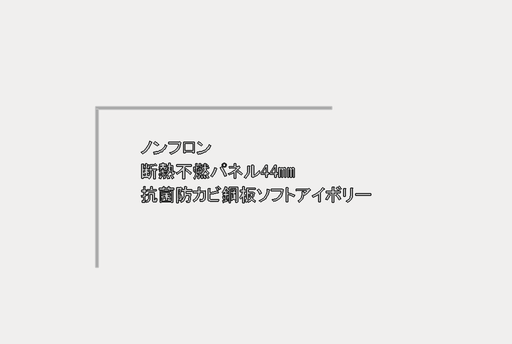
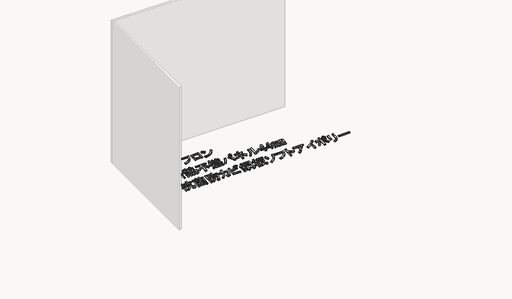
# One storey, part 12 of 117: 1 proxy.
"""IFC4 building model written with IfcOpenShell, lengths in millimetres."""

from ifc_helpers import new_model, si_unit, frame, origin, place, context, project, spatial, polyline, outline, extrude, element, save

model = new_model("IFC4")

# Units and contexts
model_context = context("Model", 3, world=origin())
ifc_project = project(units=[si_unit("LENGTHUNIT", "METRE", prefix="MILLI")], contexts=[model_context])

# Site, building, storey
site = spatial("IfcSite", under=ifc_project)
building = spatial("IfcBuilding", under=site)
storey = spatial("IfcBuildingStorey", under=building, Name="レベル 1", Elevation=500.0)

# Proxy
placement = place(None, origin())
element("IfcBuildingElementProxy", 1, Name="200㎜\u3000MS Pゴシック", ObjectType="200㎜\u3000MS Pゴシック", at=placement, inside=storey, context=model_context, shape_type="SweptSolid", body=[
    extrude(outline(polyline([(-7056.3293015, -20607.0496882), (-7081.9047498, -20666.8215225), (-7110.353844, -20712.7998566), (-7152.0217093, -20758.2034615), (-7201.1610538, -20795.560858), (-7228.7480543, -20773.7211493), (-7181.0455327, -20743.2605029), (-7141.3892195, -20704.7536481), (-7124.0036619, -20680.8305462), (-7108.6296565, -20652.7406577), (-7095.2672031, -20620.4839827), (-7083.9163019, -20584.0605212), (-7052.8809264, -20597.8540214), (-7049.7199159, -20602.4518548), (-7056.3293015, -20607.0496882)])), frame((0.0, 0.0, 500.0), z_axis=(0.0, 0.0, 1.0), x_axis=(1.0, 0.0, 0.0)), (0.0, 0.0, 1.0), 25.0),
    extrude(outline(polyline([(-6956.6022948, -20662.2236891), (-7015.2246708, -20615.0958967), (-6995.6838788, -20590.9572713), (-6968.3842429, -20610.7854279), (-6934.7625862, -20640.3839804), (-6956.6022948, -20662.2236891)])), frame((0.0, 0.0, 500.0), z_axis=(0.0, 0.0, 1.0), x_axis=(1.0, 0.0, 0.0)), (0.0, 0.0, 1.0), 25.0),
    extrude(outline(polyline([(-6794.5286672, -20662.2236891), (-6811.052131, -20691.965924), (-6830.1618761, -20717.9724192), (-6851.8579025, -20740.2431748), (-6876.1402102, -20758.7781907), (-6903.0087992, -20773.577467), (-6932.4636694, -20784.6410036), (-6964.504821, -20791.9688006), (-6999.1322539, -20795.560858), (-7004.8795456, -20803.6070664), (-7010.6268374, -20797.8597747), (-7019.8225042, -20767.9738575), (-6983.9917321, -20765.2977748), (-6951.2142088, -20758.9937141), (-6921.4899342, -20749.0616756), (-6894.8189084, -20735.5016591), (-6871.2011313, -20718.3136646), (-6850.636603, -20697.4976923), (-6833.1253234, -20673.053742), (-6818.6672926, -20644.9818138), (-6794.5286672, -20662.2236891)])), frame((0.0, 0.0, 500.0), z_axis=(0.0, 0.0, 1.0), x_axis=(1.0, 0.0, 0.0)), (0.0, 0.0, 1.0), 25.0),
    extrude(outline(polyline([(-6743.7685864, -20777.1695243), (-6709.985287, -20767.4889298), (-6680.4765359, -20755.1142922), (-6655.242333, -20740.0456116), (-6634.2826783, -20722.282888), (-6617.597572, -20701.8261214), (-6605.1870138, -20678.6753118), (-6597.0510039, -20652.8304591), (-6593.1895423, -20624.2915635), (-6765.6082951, -20624.2915635), (-6765.6082951, -20599.0034798), (-6590.8906256, -20599.0034798), (-6574.7982086, -20595.5551047), (-6562.1541668, -20607.0496882), (-6565.674383, -20643.5449909), (-6573.9361149, -20676.5919185), (-6586.9393625, -20706.1904711), (-6604.6841258, -20732.3406486), (-6627.1704048, -20755.042451), (-6654.3981995, -20774.2958784), (-6686.3675099, -20790.1009308), (-6723.078336, -20802.4576081), (-6743.7685864, -20777.1695243)])), frame((0.0, 0.0, 500.0), z_axis=(0.0, 0.0, 1.0), x_axis=(1.0, 0.0, 0.0)), (0.0, 0.0, 1.0), 25.0),
    extrude(outline(polyline([(-6329.044013, -20776.020066), (-6355.4815551, -20776.020066), (-6355.4815551, -20763.3760241), (-6483.0714321, -20763.3760241), (-6483.0714321, -20781.7673577), (-6509.5089742, -20781.7673577), (-6509.5089742, -20602.4518548), (-6329.044013, -20602.4518548), (-6329.044013, -20776.020066)]), holes=[polyline([(-6483.0714321, -20627.7399386), (-6483.0714321, -20738.0879404), (-6355.4815551, -20738.0879404), (-6355.4815551, -20627.7399386), (-6483.0714321, -20627.7399386)])]), frame((0.0, 0.0, 500.0), z_axis=(0.0, 0.0, 1.0), x_axis=(1.0, 0.0, 0.0)), (0.0, 0.0, 1.0), 25.0),
    extrude(outline(polyline([(-6052.9900951, -20662.2236891), (-6069.5135589, -20691.965924), (-6088.623304, -20717.9724192), (-6110.3193304, -20740.2431748), (-6134.6016381, -20758.7781907), (-6161.4702271, -20773.577467), (-6190.9250974, -20784.6410036), (-6222.9662489, -20791.9688006), (-6257.5936818, -20795.560858), (-6263.3409736, -20803.6070664), (-6269.0882653, -20797.8597747), (-6278.2839321, -20767.9738575), (-6242.4531601, -20765.2977748), (-6209.6756367, -20758.9937141), (-6179.9513622, -20749.0616756), (-6153.2803363, -20735.5016591), (-6129.6625593, -20718.3136646), (-6109.0980309, -20697.4976923), (-6091.5867514, -20673.053742), (-6077.1287205, -20644.9818138), (-6052.9900951, -20662.2236891)])), frame((0.0, 0.0, 500.0), z_axis=(0.0, 0.0, 1.0), x_axis=(1.0, 0.0, 0.0)), (0.0, 0.0, 1.0), 25.0),
    extrude(outline(polyline([(-6215.0637228, -20662.2236891), (-6273.6860987, -20615.0958967), (-6254.1453067, -20590.9572713), (-6226.8456709, -20610.7854279), (-6193.2240141, -20640.3839804), (-6215.0637228, -20662.2236891)])), frame((0.0, 0.0, 500.0), z_axis=(0.0, 0.0, 1.0), x_axis=(1.0, 0.0, 0.0)), (0.0, 0.0, 1.0), 25.0),
    extrude(outline(polyline([(-7122.9978859, -21039.2345221), (-7105.7560106, -20986.3594379), (-7085.0657603, -20992.1067296), (-7083.3415727, -20995.2677401), (-7087.364677, -20997.8540214), (-7104.6065523, -21046.1312722), (-7122.9978859, -21039.2345221)])), frame((0.0, 0.0, 500.0), z_axis=(0.0, 0.0, 1.0), x_axis=(1.0, 0.0, 0.0)), (0.0, 0.0, 1.0), 25.0),
    extrude(outline(polyline([(-6968.9704667, -20990.9572713), (-6970.6946542, -20995.5551047), (-6978.1661335, -20993.256188), (-7055.1798431, -21005.9002299), (-7055.1798431, -21055.326939), (-6963.2231749, -21055.326939), (-6963.2231749, -21077.1666477), (-6994.2585505, -21077.1666477), (-6994.2585505, -21217.4005666), (-7017.2477175, -21217.4005666), (-7017.2477175, -21077.1666477), (-7055.1798431, -21077.1666477), (-7055.1798431, -21126.5933568), (-7057.7661244, -21154.3958807), (-7065.5249683, -21179.1810764), (-7078.4563747, -21200.948944), (-7096.5603438, -21219.6994833), (-7113.8022191, -21200.1586914), (-7103.4570939, -21190.9630245), (-7193.1148454, -21190.9630245), (-7193.1148454, -21212.8027332), (-7216.1040124, -21212.8027332), (-7216.1040124, -20973.715396), (-7194.2643037, -20973.715396), (-7189.3791057, -20976.0143127), (-7193.1148454, -20980.6121461), (-7193.1148454, -21056.4763974), (-7150.5848863, -21056.4763974), (-7150.5848863, -20969.1175626), (-7132.1935527, -20969.1175626), (-7127.3083547, -20971.4164793), (-7131.0440943, -20976.0143127), (-7131.0440943, -21056.4763974), (-7087.364677, -21056.4763974), (-7087.364677, -21074.867731), (-7131.0440943, -21074.867731), (-7131.0440943, -21084.0633978), (-7090.813052, -21110.5009399), (-7104.6065523, -21132.3406486), (-7131.0440943, -21105.9031065), (-7131.0440943, -21158.7781907), (-7150.5848863, -21158.7781907), (-7150.5848863, -21110.5009399), (-7163.8036574, -21130.3290965), (-7178.1718868, -21146.1341488), (-7190.8159287, -21127.7428152), (-7168.97622, -21103.6041898), (-7151.7343447, -21074.867731), (-7193.1148454, -21074.867731), (-7193.1148454, -21169.1233159), (-7095.4108854, -21169.1233159), (-7095.4108854, -21182.9168161), (-7082.479479, -21158.7781907), (-7078.1690102, -21125.4438985), (-7078.1690102, -20980.6121461), (-7056.3293015, -20986.3594379), (-7020.1213634, -20978.8879586), (-6989.660717, -20965.6691875), (-6968.9704667, -20990.9572713)])), frame((0.0, 0.0, 500.0), z_axis=(0.0, 0.0, 1.0), x_axis=(1.0, 0.0, 0.0)), (0.0, 0.0, 1.0), 25.0),
    extrude(outline(polyline([(-7177.0224284, -21047.2807305), (-7189.6664703, -20996.7045631), (-7170.1256783, -20989.8078129), (-7162.3668344, -21013.9464383), (-7157.4816364, -21040.3839804), (-7177.0224284, -21047.2807305)])), frame((0.0, 0.0, 500.0), z_axis=(0.0, 0.0, 1.0), x_axis=(1.0, 0.0, 0.0)), (0.0, 0.0, 1.0), 25.0),
    extrude(outline(polyline([(-6878.1632569, -21167.9738575), (-6874.7148818, -21172.8590555), (-6880.4621736, -21176.020066), (-6890.2325696, -21201.5955143), (-6901.1524239, -21220.8489417), (-6924.141591, -21209.3543582), (-6911.4975491, -21185.790462), (-6901.1524239, -21158.7781907), (-6878.1632569, -21167.9738575)])), frame((0.0, 0.0, 500.0), z_axis=(0.0, 0.0, 1.0), x_axis=(1.0, 0.0, 0.0)), (0.0, 0.0, 1.0), 25.0),
    extrude(outline(polyline([(-6833.3343812, -21163.3760241), (-6823.2766206, -21190.67566), (-6818.3914226, -21212.8027332), (-6847.1278814, -21218.550025), (-6849.7141627, -21196.9976809), (-6857.4730066, -21166.8243992), (-6833.3343812, -21163.3760241)])), frame((0.0, 0.0, 500.0), z_axis=(0.0, 0.0, 1.0), x_axis=(1.0, 0.0, 0.0)), (0.0, 0.0, 1.0), 25.0),
    extrude(outline(polyline([(-6718.388546, -21157.6287323), (-6693.6751914, -21178.8937119), (-6674.7091286, -21203.6070664), (-6701.1466707, -21218.550025), (-6720.4000981, -21188.9514724), (-6739.0787963, -21169.1233159), (-6718.388546, -21157.6287323)])), frame((0.0, 0.0, 500.0), z_axis=(0.0, 0.0, 1.0), x_axis=(1.0, 0.0, 0.0)), (0.0, 0.0, 1.0), 25.0),
    extrude(outline(polyline([(-6777.0109219, -21216.2511083), (-6785.344495, -21191.5377537), (-6798.8506306, -21170.2727742), (-6778.1603803, -21162.2265657), (-6761.2058696, -21183.7789098), (-6749.4239215, -21207.0554415), (-6777.0109219, -21216.2511083)])), frame((0.0, 0.0, 500.0), z_axis=(0.0, 0.0, 1.0), x_axis=(1.0, 0.0, 0.0)), (0.0, 0.0, 1.0), 25.0),
    extrude(outline(polyline([(-6916.0953825, -21153.0308989), (-6918.1069346, -21157.9160969), (-6921.8426743, -21156.479274), (-6927.589966, -21132.3406486), (-6872.4159651, -21124.2944401), (-6872.4159651, -21101.3052731), (-6916.0953825, -21101.3052731), (-6916.0953825, -21082.9139395), (-6872.4159651, -21082.9139395), (-6872.4159651, -21059.9247724), (-6854.0246315, -21059.9247724), (-6849.1394335, -21062.2236891), (-6852.8751732, -21066.8215225), (-6852.8751732, -21082.9139395), (-6808.0462974, -21082.9139395), (-6808.0462974, -21101.3052731), (-6852.8751732, -21101.3052731), (-6852.8751732, -21120.8460651), (-6802.2990057, -21111.6503983), (-6802.2990057, -21127.7428152), (-6916.0953825, -21153.0308989)])), frame((0.0, 0.0, 500.0), z_axis=(0.0, 0.0, 1.0), x_axis=(1.0, 0.0, 0.0)), (0.0, 0.0, 1.0), 25.0),
    extrude(outline(polyline([(-6845.978423, -21031.1883136), (-6871.2665068, -21031.1883136), (-6875.8643402, -21048.6457123), (-6886.2094654, -21061.9363245), (-6902.3018823, -21071.0601502), (-6924.141591, -21076.0171893), (-6928.7394244, -21056.4763974), (-6903.4513406, -21047.8554597), (-6895.9798614, -21040.5276627), (-6891.9567571, -21031.1883136), (-6927.589966, -21031.1883136), (-6927.589966, -21012.79698), (-6873.5654235, -21012.79698), (-6873.5654235, -20995.5551047), (-6917.2448409, -20995.5551047), (-6917.2448409, -20977.1637711), (-6873.5654235, -20977.1637711), (-6873.5654235, -20958.7724374), (-6851.7257148, -20958.7724374), (-6846.8405168, -20961.0713541), (-6850.5762564, -20965.6691875), (-6850.5762564, -20977.1637711), (-6808.0462974, -20977.1637711), (-6808.0462974, -20995.5551047), (-6850.5762564, -20995.5551047), (-6850.5762564, -21012.79698), (-6797.7011723, -21012.79698), (-6797.7011723, -21031.1883136), (-6826.4376311, -21031.1883136), (-6826.4376311, -21043.8323555), (-6825.0008081, -21049.0049181), (-6820.6903393, -21050.7291056), (-6810.3452141, -21050.7291056), (-6806.6094745, -21047.5680951), (-6806.8968391, -21038.0850637), (-6787.3560471, -21040.3839804), (-6790.229693, -21061.9363245), (-6795.5459378, -21067.3244106), (-6803.448464, -21069.1204392), (-6827.5870894, -21069.1204392), (-6841.3805896, -21064.2352412), (-6845.978423, -21049.5796472), (-6845.978423, -21031.1883136)])), frame((0.0, 0.0, 500.0), z_axis=(0.0, 0.0, 1.0), x_axis=(1.0, 0.0, 0.0)), (0.0, 0.0, 1.0), 25.0),
    extrude(outline(polyline([(-6714.9401709, -21013.9464383), (-6736.7798796, -21013.9464383), (-6741.377713, -21071.4193559), (-6721.836921, -21089.8106896), (-6732.1820462, -21111.6503983), (-6748.2744631, -21095.5579813), (-6767.5278905, -21133.2027424), (-6797.7011723, -21165.6749408), (-6814.9430475, -21144.9846905), (-6799.8564067, -21133.0590601), (-6786.7813179, -21117.9724192), (-6775.7177813, -21099.7247679), (-6766.6657967, -21078.316106), (-6783.907672, -21063.3731475), (-6775.8614636, -21046.1312722), (-6762.0679633, -21056.4763974), (-6759.7690466, -21013.9464383), (-6787.3560471, -21013.9464383), (-6787.3560471, -20995.5551047), (-6759.7690466, -20995.5551047), (-6759.7690466, -20961.0713541), (-6737.9293379, -20961.0713541), (-6733.04414, -20963.3702708), (-6736.7798796, -20967.9681043), (-6736.7798796, -20995.5551047), (-6695.3993789, -20995.5551047), (-6695.3993789, -21092.1096063), (-6691.9510039, -21116.2482317), (-6688.7181523, -21118.2597838), (-6685.9163475, -21115.0987733), (-6681.6058787, -21093.2590646), (-6662.0650867, -21100.1558147), (-6666.591079, -21126.9525626), (-6674.421764, -21142.9731384), (-6685.5571418, -21148.2175421), (-6699.9972123, -21142.6857738), (-6706.5347567, -21135.3579768), (-6711.2044313, -21123.719711), (-6714.9401709, -21087.5117729), (-6714.9401709, -21013.9464383)])), frame((0.0, 0.0, 500.0), z_axis=(0.0, 0.0, 1.0), x_axis=(1.0, 0.0, 0.0)), (0.0, 0.0, 1.0), 25.0),
    extrude(outline(polyline([(-6626.4318778, -20980.6121461), (-6385.0456239, -20980.6121461), (-6385.0456239, -21005.9002299), (-6485.0485005, -21005.9002299), (-6495.3936257, -21030.0388553), (-6495.3936257, -21216.2511083), (-6521.8311678, -21216.2511083), (-6521.8311678, -21069.1204392), (-6542.6651004, -21092.3969709), (-6566.0853143, -21112.7998566), (-6592.0918095, -21130.3290965), (-6620.684586, -21144.9846905), (-6636.777003, -21118.5471484), (-6597.192531, -21098.1442626), (-6563.499033, -21072.5688143), (-6535.6965091, -21041.8208034), (-6513.7849593, -21005.9002299), (-6626.4318778, -21005.9002299), (-6626.4318778, -20980.6121461)])), frame((0.0, 0.0, 500.0), z_axis=(0.0, 0.0, 1.0), x_axis=(1.0, 0.0, 0.0)), (0.0, 0.0, 1.0), 25.0),
    extrude(outline(polyline([(-6399.9885824, -21141.5363154), (-6439.0701664, -21103.3168252), (-6480.4506671, -21073.7182726), (-6464.3582502, -21053.0280223), (-6420.6788328, -21081.1897519), (-6379.2983321, -21119.6966067), (-6399.9885824, -21141.5363154)])), frame((0.0, 0.0, 500.0), z_axis=(0.0, 0.0, 1.0), x_axis=(1.0, 0.0, 0.0)), (0.0, 0.0, 1.0), 25.0),
    extrude(outline(polyline([(-6232.167663, -21163.3760241), (-6240.7886007, -21193.8366704), (-6255.1568301, -21220.8489417), (-6274.6976221, -21208.2048998), (-6260.6167573, -21183.4915453), (-6250.5589967, -21155.3298156), (-6232.167663, -21163.3760241)])), frame((0.0, 0.0, 500.0), z_axis=(0.0, 0.0, 1.0), x_axis=(1.0, 0.0, 0.0)), (0.0, 0.0, 1.0), 25.0),
    extrude(outline(polyline([(-6317.2275811, -21025.4410219), (-6312.6297477, -21027.7399386), (-6317.2275811, -21032.337772), (-6318.3770395, -21071.9940851), (-6324.1243312, -21105.9031065), (-6342.5156648, -21093.2590646), (-6336.7683731, -21058.7753141), (-6335.6189147, -21021.9926468), (-6317.2275811, -21025.4410219)])), frame((0.0, 0.0, 500.0), z_axis=(0.0, 0.0, 1.0), x_axis=(1.0, 0.0, 0.0)), (0.0, 0.0, 1.0), 25.0),
    extrude(outline(polyline([(-6265.5019553, -21007.0496882), (-6256.3062884, -21024.2915635), (-6254.8694655, -21030.3262199), (-6259.7546635, -21030.0388553), (-6286.1922056, -21050.7291056), (-6286.1922056, -21134.6395653), (-6272.3987054, -21146.9962426), (-6260.9041219, -21163.3760241), (-6273.5481637, -21184.0662744), (-6291.9394974, -21158.7781907), (-6303.7214455, -21194.6987642), (-6325.2737896, -21224.2973168), (-6340.2167481, -21205.9059831), (-6325.1301073, -21187.1554438), (-6314.3539352, -21166.5370346), (-6307.888232, -21144.0507556), (-6305.7329976, -21119.6966067), (-6305.7329976, -20962.2208125), (-6287.3416639, -20962.2208125), (-6282.456466, -20964.5197292), (-6286.1922056, -20969.1175626), (-6286.1922056, -21027.7399386), (-6265.5019553, -21007.0496882)])), frame((0.0, 0.0, 500.0), z_axis=(0.0, 0.0, 1.0), x_axis=(1.0, 0.0, 0.0)), (0.0, 0.0, 1.0), 25.0),
    extrude(outline(polyline([(-6114.9229111, -20976.0143127), (-6093.0832025, -21000.1529381), (-6110.3250777, -21011.6475216), (-6116.9344633, -21000.1529381), (-6129.8658697, -20986.3594379), (-6114.9229111, -20976.0143127)])), frame((0.0, 0.0, 500.0), z_axis=(0.0, 0.0, 1.0), x_axis=(1.0, 0.0, 0.0)), (0.0, 0.0, 1.0), 25.0),
    extrude(outline(polyline([(-6104.577786, -21212.8027332), (-6117.796557, -21184.6410036), (-6134.4637031, -21159.927649), (-6116.0723695, -21151.8814406), (-6097.1063067, -21174.8706076), (-6081.5886189, -21202.4576081), (-6104.577786, -21212.8027332)])), frame((0.0, 0.0, 500.0), z_axis=(0.0, 0.0, 1.0), x_axis=(1.0, 0.0, 0.0)), (0.0, 0.0, 1.0), 25.0),
    extrude(outline(polyline([(-6154.0044951, -21157.6287323), (-6135.6131615, -21207.0554415), (-6159.7517869, -21211.6532749), (-6173.5452871, -21161.0771074), (-6154.0044951, -21157.6287323)])), frame((0.0, 0.0, 500.0), z_axis=(0.0, 0.0, 1.0), x_axis=(1.0, 0.0, 0.0)), (0.0, 0.0, 1.0), 25.0),
    extrude(outline(polyline([(-6212.6268711, -21215.1016499), (-6212.0521419, -21188.0893787), (-6214.9257878, -21159.927649), (-6195.3849958, -21158.7781907), (-6189.0629748, -21184.9283682), (-6188.4882457, -21212.8027332), (-6212.6268711, -21215.1016499)])), frame((0.0, 0.0, 500.0), z_axis=(0.0, 0.0, 1.0), x_axis=(1.0, 0.0, 0.0)), (0.0, 0.0, 1.0), 25.0),
    extrude(outline(polyline([(-6093.0832025, -21142.6857738), (-6123.8312134, -21112.2251274), (-6144.8088283, -21078.316106), (-6153.2142425, -21100.4431793), (-6164.6369849, -21119.6966067), (-6179.0770554, -21136.0763882), (-6196.5344541, -21149.5825239), (-6210.3279544, -21131.1911902), (-6189.4940217, -21112.2969686), (-6174.1200163, -21091.2475125), (-6164.205938, -21068.042822), (-6159.7517869, -21042.6828971), (-6188.4882457, -21042.6828971), (-6196.462613, -21073.2872258), (-6210.0405898, -21100.7305439), (-6229.222176, -21125.0128516), (-6254.0073717, -21146.1341488), (-6266.6514136, -21130.0417319), (-6240.7886007, -21108.4893878), (-6225.2709129, -21087.5117729), (-6247.1106216, -21067.9709809), (-6260.9041219, -21088.6612312), (-6274.6976221, -21073.7182726), (-6262.2691036, -21054.6803687), (-6252.5705488, -21029.7514907), (-6245.6019575, -20998.9316386), (-6241.3633299, -20962.2208125), (-6220.6730795, -20964.5197292), (-6217.2247045, -20967.1060105), (-6222.9719962, -20970.267021), (-6225.2709129, -20988.6583546), (-6181.5914956, -20988.6583546), (-6185.0398706, -21024.2915635), (-6159.7517869, -21024.2915635), (-6159.7517869, -20962.2208125), (-6137.9120782, -20962.2208125), (-6133.0268802, -20964.5197292), (-6136.7626198, -20969.1175626), (-6136.7626198, -21024.2915635), (-6087.3359107, -21024.2915635), (-6087.3359107, -21042.6828971), (-6136.7626198, -21042.6828971), (-6130.2250755, -21064.4507647), (-6118.6586508, -21084.9254916), (-6102.0633458, -21104.1070778), (-6080.4391606, -21121.9955234), (-6093.0832025, -21142.6857738)]), holes=[polyline([(-6217.2247045, -21072.5688143), (-6210.3279544, -21053.0280223), (-6235.6160381, -21036.9356054), (-6241.3633299, -21054.1774807), (-6217.2247045, -21072.5688143)]), polyline([(-6227.5698296, -21007.0496882), (-6231.0182047, -21023.1421052), (-6205.730121, -21036.9356054), (-6201.1322875, -21007.0496882), (-6227.5698296, -21007.0496882)])]), frame((0.0, 0.0, 500.0), z_axis=(0.0, 0.0, 1.0), x_axis=(1.0, 0.0, 0.0)), (0.0, 0.0, 1.0), 25.0),
    extrude(outline(polyline([(-5867.7893655, -21016.245355), (-5841.1362999, -21052.9561812), (-5818.6500209, -21090.6727833), (-5800.3305284, -21129.3951616), (-5786.1778225, -21169.1233159), (-5817.213198, -21179.468441), (-5832.6590446, -21136.3637528), (-5850.2601256, -21097.856898), (-5870.016441, -21063.9478766), (-5891.9279908, -21034.6366887), (-5867.7893655, -21016.245355)])), frame((0.0, 0.0, 500.0), z_axis=(0.0, 0.0, 1.0), x_axis=(1.0, 0.0, 0.0)), (0.0, 0.0, 1.0), 25.0),
    extrude(outline(polyline([(-5955.1482002, -21042.6828971), (-5951.125096, -21048.1428243), (-5957.4471169, -21053.0280223), (-5969.3727473, -21088.4457078), (-5984.4593882, -21122.282888), (-6002.7070395, -21154.539563), (-6024.1157013, -21185.2157328), (-6050.5532434, -21167.9738575), (-6027.3485529, -21136.5074351), (-6008.310649, -21103.0294606), (-5993.4395316, -21067.539934), (-5982.7352007, -21030.0388553), (-5955.1482002, -21042.6828971)])), frame((0.0, 0.0, 500.0), z_axis=(0.0, 0.0, 1.0), x_axis=(1.0, 0.0, 0.0)), (0.0, 0.0, 1.0), 25.0),
    extrude(outline(polyline([(-5821.8110314, -21021.9926468), (-5834.4550732, -21019.6937301), (-5844.8001984, -21012.79698), (-5851.6969485, -21002.4518548), (-5853.9958652, -20989.8078129), (-5851.6969485, -20977.1637711), (-5844.8001984, -20966.8186459), (-5834.4550732, -20959.9218958), (-5821.8110314, -20957.6229791), (-5809.1669895, -20959.9218958), (-5798.8218643, -20966.8186459), (-5791.9251142, -20977.1637711), (-5789.6261975, -20989.8078129), (-5791.9251142, -21002.4518548), (-5798.8218643, -21012.79698), (-5809.1669895, -21019.6937301), (-5821.8110314, -21021.9926468)]), holes=[polyline([(-5821.8110314, -21010.4980633), (-5813.4774583, -21009.0612403), (-5806.8680728, -21004.7507715), (-5802.557604, -20998.141386), (-5801.120781, -20989.8078129), (-5802.557604, -20981.4742399), (-5806.8680728, -20974.8648544), (-5813.4774583, -20970.5543855), (-5821.8110314, -20969.1175626), (-5830.1446044, -20970.5543855), (-5836.7539899, -20974.8648544), (-5841.0644588, -20981.4742399), (-5842.5012817, -20989.8078129), (-5841.0644588, -20998.141386), (-5836.7539899, -21004.7507715), (-5830.1446044, -21009.0612403), (-5821.8110314, -21010.4980633)])]), frame((0.0, 0.0, 500.0), z_axis=(0.0, 0.0, 1.0), x_axis=(1.0, 0.0, 0.0)), (0.0, 0.0, 1.0), 25.0),
    extrude(outline(polyline([(-5578.1258607, -21011.6475216), (-5571.2291106, -21009.3486049), (-5558.5850688, -21026.5904802), (-5557.4356104, -21032.6251366), (-5563.1829022, -21034.6366887), (-5626.4031115, -21090.9601479), (-5626.4031115, -21211.6532749), (-5652.8406536, -21211.6532749), (-5652.8406536, -21109.3514816), (-5693.0716959, -21133.4901069), (-5737.9005717, -21155.3298156), (-5757.4413637, -21134.6395653), (-5711.8940765, -21115.1706145), (-5670.6572581, -21092.3969709), (-5633.7309085, -21066.3186345), (-5601.1150278, -21036.9356054), (-5731.0038216, -21042.6828971), (-5734.4521966, -21017.3948134), (-5652.8406536, -21015.0958967), (-5652.8406536, -20963.3702708), (-5629.8514866, -20963.3702708), (-5623.8168302, -20966.8186459), (-5626.4031115, -20972.5659377), (-5626.4031115, -21013.9464383), (-5578.1258607, -21011.6475216)])), frame((0.0, 0.0, 500.0), z_axis=(0.0, 0.0, 1.0), x_axis=(1.0, 0.0, 0.0)), (0.0, 0.0, 1.0), 25.0),
    extrude(outline(polyline([(-5532.1475267, -21155.3298156), (-5569.2175585, -21126.0186277), (-5602.2644861, -21104.7536481), (-5585.0226108, -21082.9139395), (-5546.2283915, -21106.1904711), (-5512.6067347, -21132.3406486), (-5532.1475267, -21155.3298156)])), frame((0.0, 0.0, 500.0), z_axis=(0.0, 0.0, 1.0), x_axis=(1.0, 0.0, 0.0)), (0.0, 0.0, 1.0), 25.0),
    extrude(outline(polyline([(-5325.1530666, -21162.2265657), (-5300.3678709, -21150.0135708), (-5276.5884512, -21132.9153778), (-5253.8148076, -21110.9319868), (-5232.0469401, -21084.0633978), (-5215.9545232, -21105.9031065), (-5239.2310548, -21133.7056304), (-5265.3812323, -21157.3413678), (-5294.4050557, -21176.8103186), (-5326.302525, -21192.1124829), (-5335.4981918, -21196.7103163), (-5353.8895254, -21182.9168161), (-5351.5906087, -21177.1695243), (-5351.5906087, -20992.1067296), (-5327.4519833, -20992.1067296), (-5321.7046916, -20995.5551047), (-5325.1530666, -21001.3023965), (-5325.1530666, -21162.2265657)])), frame((0.0, 0.0, 500.0), z_axis=(0.0, 0.0, 1.0), x_axis=(1.0, 0.0, 0.0)), (0.0, 0.0, 1.0), 25.0),
    extrude(outline(polyline([(-5479.1804858, -21193.2619413), (-5454.0360843, -21164.0225944), (-5436.0757976, -21131.4785548), (-5425.2996255, -21095.6298225), (-5421.7075682, -21056.4763974), (-5421.7075682, -21004.7507715), (-5397.5689428, -21004.7507715), (-5391.821651, -21008.1991466), (-5395.2700261, -21013.9464383), (-5395.2700261, -21055.326939), (-5399.0776069, -21101.0897496), (-5410.5003493, -21141.82368), (-5429.5382532, -21177.5287301), (-5456.1913188, -21208.2048998), (-5479.1804858, -21193.2619413)])), frame((0.0, 0.0, 500.0), z_axis=(0.0, 0.0, 1.0), x_axis=(1.0, 0.0, 0.0)), (0.0, 0.0, 1.0), 25.0),
    extrude(outline(polyline([(-5115.9516465, -20993.256188), (-5089.5141045, -20993.256188), (-5089.5141045, -21119.6966067), (-5065.3754791, -21119.6966067), (-5065.3754791, -21141.5363154), (-5089.5141045, -21141.5363154), (-5089.5141045, -21192.1124829), (-5115.9516465, -21192.1124829), (-5115.9516465, -21141.5363154), (-5192.9653561, -21141.5363154), (-5192.9653561, -21118.5471484), (-5115.9516465, -20993.256188)]), holes=[polyline([(-5115.9516465, -21035.786147), (-5167.6772724, -21119.6966067), (-5115.9516465, -21119.6966067), (-5115.9516465, -21035.786147)])]), frame((0.0, 0.0, 500.0), z_axis=(0.0, 0.0, 1.0), x_axis=(1.0, 0.0, 0.0)), (0.0, 0.0, 1.0), 25.0),
    extrude(outline(polyline([(-4968.8209775, -20993.256188), (-4942.3834354, -20993.256188), (-4942.3834354, -21119.6966067), (-4918.24481, -21119.6966067), (-4918.24481, -21141.5363154), (-4942.3834354, -21141.5363154), (-4942.3834354, -21192.1124829), (-4968.8209775, -21192.1124829), (-4968.8209775, -21141.5363154), (-5045.8346871, -21141.5363154), (-5045.8346871, -21118.5471484), (-4968.8209775, -20993.256188)]), holes=[polyline([(-4968.8209775, -21035.786147), (-5020.5466033, -21119.6966067), (-4968.8209775, -21119.6966067), (-4968.8209775, -21035.786147)])]), frame((0.0, 0.0, 500.0), z_axis=(0.0, 0.0, 1.0), x_axis=(1.0, 0.0, 0.0)), (0.0, 0.0, 1.0), 25.0),
    extrude(outline(polyline([(-4874.5653926, -21193.2619413), (-4894.1061846, -21193.2619413), (-4894.1061846, -21035.786147), (-4874.5653926, -21035.786147), (-4874.5653926, -21053.0280223), (-4862.4960799, -21037.5103346), (-4849.2773089, -21032.337772), (-4840.0816421, -21033.7745949), (-4833.1848919, -21038.0850637), (-4826.2881418, -21051.878564), (-4813.3567354, -21037.22297), (-4799.8505997, -21032.337772), (-4791.5170267, -21033.7745949), (-4784.9076412, -21038.0850637), (-4779.7350786, -21046.7060014), (-4778.010891, -21058.7753141), (-4778.010891, -21193.2619413), (-4797.551683, -21193.2619413), (-4797.551683, -21069.1204392), (-4800.1379643, -21059.6374078), (-4807.8968082, -21056.4763974), (-4818.2419334, -21061.0742308), (-4824.2765897, -21069.6951684), (-4826.2881418, -21079.4655644), (-4826.2881418, -21193.2619413), (-4845.8289338, -21193.2619413), (-4845.8289338, -21069.1204392), (-4848.4152151, -21059.6374078), (-4856.174059, -21056.4763974), (-4866.5191842, -21061.0742308), (-4872.5538405, -21069.6951684), (-4874.5653926, -21079.4655644), (-4874.5653926, -21193.2619413)])), frame((0.0, 0.0, 500.0), z_axis=(0.0, 0.0, 1.0), x_axis=(1.0, 0.0, 0.0)), (0.0, 0.0, 1.0), 25.0),
    extrude(outline(polyline([(-4652.7199307, -21032.337772), (-4644.3863576, -21033.7745949), (-4637.7769721, -21038.0850637), (-4632.6044095, -21046.7060014), (-4630.880222, -21058.7753141), (-4630.880222, -21193.2619413), (-4650.421014, -21193.2619413), (-4650.421014, -21069.1204392), (-4653.0072953, -21059.6374078), (-4660.7661391, -21056.4763974), (-4671.1112643, -21061.0742308), (-4677.1459207, -21069.6951684), (-4679.1574728, -21079.4655644), (-4679.1574728, -21193.2619413), (-4698.6982648, -21193.2619413), (-4698.6982648, -21069.1204392), (-4701.284546, -21059.6374078), (-4709.0433899, -21056.4763974), (-4719.3885151, -21061.0742308), (-4725.4231714, -21069.6951684), (-4727.4347236, -21079.4655644), (-4727.4347236, -21193.2619413), (-4746.9755155, -21193.2619413), (-4746.9755155, -21035.786147), (-4727.4347236, -21035.786147), (-4727.4347236, -21053.0280223), (-4715.3654109, -21037.5103346), (-4702.1466398, -21032.337772), (-4692.950973, -21033.7745949), (-4686.0542229, -21038.0850637), (-4679.1574728, -21051.878564), (-4666.2260663, -21037.22297), (-4652.7199307, -21032.337772)])), frame((0.0, 0.0, 500.0), z_axis=(0.0, 0.0, 1.0), x_axis=(1.0, 0.0, 0.0)), (0.0, 0.0, 1.0), 25.0),
    extrude(outline(polyline([(-7212.6556373, -21527.7428152), (-7216.1040124, -21533.7774715), (-7219.5523875, -21528.8922735), (-7227.5985959, -21505.9031065), (-7189.6664703, -21497.856898), (-7189.6664703, -21438.0850637), (-7223.0007625, -21438.0850637), (-7223.0007625, -21416.245355), (-7189.6664703, -21416.245355), (-7189.6664703, -21356.4735207), (-7167.8267616, -21356.4735207), (-7162.9415636, -21358.7724374), (-7166.6773033, -21363.3702708), (-7166.6773033, -21416.245355), (-7140.2397612, -21416.245355), (-7140.2397612, -21438.0850637), (-7166.6773033, -21438.0850637), (-7166.6773033, -21492.1096063), (-7131.0440943, -21481.7644811), (-7128.7451776, -21503.6041898), (-7166.6773033, -21515.0987733), (-7166.6773033, -21603.6070664), (-7170.4130429, -21615.6763791), (-7181.6202618, -21619.6994833), (-7208.0578039, -21619.6994833), (-7211.506179, -21594.4113996), (-7194.2643037, -21594.4113996), (-7190.8159287, -21593.2619413), (-7189.6664703, -21589.8135662), (-7189.6664703, -21520.8460651), (-7212.6556373, -21527.7428152)])), frame((0.0, 0.0, 500.0), z_axis=(0.0, 0.0, 1.0), x_axis=(1.0, 0.0, 0.0)), (0.0, 0.0, 1.0), 25.0),
    extrude(outline(polyline([(-7066.6744266, -21403.6013132), (-7066.6744266, -21357.6229791), (-7044.8347179, -21357.6229791), (-7039.9495199, -21359.9218958), (-7043.6852596, -21364.5197292), (-7043.6852596, -21403.6013132), (-6972.4188418, -21403.6013132), (-6972.4188418, -21425.4410219), (-7128.7451776, -21425.4410219), (-7128.7451776, -21403.6013132), (-7066.6744266, -21403.6013132)])), frame((0.0, 0.0, 500.0), z_axis=(0.0, 0.0, 1.0), x_axis=(1.0, 0.0, 0.0)), (0.0, 0.0, 1.0), 25.0),
    extrude(outline(polyline([(-7010.3509674, -21461.0742308), (-7010.3509674, -21577.1695243), (-7008.3394153, -21584.0662744), (-7002.3047589, -21586.3651911), (-6995.4080088, -21586.3651911), (-6990.8101754, -21584.0662744), (-6988.5112587, -21577.1695243), (-6986.212342, -21554.1803573), (-6962.0737166, -21562.2265657), (-6964.3726333, -21585.2157328), (-6966.67155, -21596.7821575), (-6971.2693834, -21605.0438894), (-6978.1661335, -21610.0009285), (-6987.3618003, -21611.6532749), (-7009.201509, -21611.6532749), (-7019.7621576, -21610.3601342), (-7027.3054781, -21606.4807123), (-7031.8314703, -21600.0150091), (-7033.3401344, -21590.9630245), (-7033.3401344, -21482.9139395), (-7080.4679269, -21482.9139395), (-7080.4679269, -21548.4330655), (-7084.2036665, -21573.2901024), (-7095.4108854, -21593.8366704), (-7114.0895837, -21610.0727697), (-7140.2397612, -21621.9984001), (-7149.435428, -21596.7103163), (-7129.3199068, -21589.238837), (-7114.9516774, -21578.3189827), (-7106.3307398, -21563.9507533), (-7103.4570939, -21546.1341488), (-7103.4570939, -21461.0742308), (-7010.3509674, -21461.0742308)])), frame((0.0, 0.0, 500.0), z_axis=(0.0, 0.0, 1.0), x_axis=(1.0, 0.0, 0.0)), (0.0, 0.0, 1.0), 25.0),
    extrude(outline(polyline([(-6870.1170484, -21461.0742308), (-6804.0231932, -21457.3384911), (-6752.8722965, -21450.7291056), (-6742.5271714, -21464.5226058), (-6740.2282547, -21470.5572622), (-6747.1250048, -21470.2698976), (-6791.9538805, -21473.7182726), (-6791.9538805, -21490.9601479), (-6732.1820462, -21490.9601479), (-6732.1820462, -21509.3514816), (-6788.5055054, -21509.3514816), (-6757.1827653, -21533.7774715), (-6720.6874627, -21549.5825239), (-6728.7336711, -21571.4222326), (-6761.2058696, -21555.9045448), (-6791.9538805, -21530.0417319), (-6791.9538805, -21580.6178994), (-6811.4946725, -21580.6178994), (-6811.4946725, -21531.1911902), (-6836.4953916, -21553.8929927), (-6872.4159651, -21573.7211493), (-6881.611632, -21554.1803573), (-6842.8174126, -21534.3522007), (-6813.7935892, -21509.3514816), (-6871.2665068, -21509.3514816), (-6871.2665068, -21490.9601479), (-6811.4946725, -21490.9601479), (-6811.4946725, -21476.0171893), (-6865.519215, -21478.316106), (-6870.1170484, -21461.0742308)])), frame((0.0, 0.0, 500.0), z_axis=(0.0, 0.0, 1.0), x_axis=(1.0, 0.0, 0.0)), (0.0, 0.0, 1.0), 25.0),
    extrude(outline(polyline([(-6751.7228382, -21423.1421052), (-6696.5488373, -21423.1421052), (-6696.5488373, -21617.4005666), (-6716.0896293, -21617.4005666), (-6716.0896293, -21608.2048998), (-6888.5083821, -21608.2048998), (-6888.5083821, -21621.9984001), (-6908.0491741, -21621.9984001), (-6908.0491741, -21423.1421052), (-6855.1740899, -21423.1421052), (-6855.1740899, -21402.4518548), (-6925.2910493, -21402.4518548), (-6925.2910493, -21384.0605212), (-6855.1740899, -21384.0605212), (-6855.1740899, -21357.6229791), (-6836.7827562, -21357.6229791), (-6831.8975582, -21359.9218958), (-6835.6332979, -21364.5197292), (-6835.6332979, -21384.0605212), (-6771.2636302, -21384.0605212), (-6771.2636302, -21357.6229791), (-6752.8722965, -21357.6229791), (-6747.9870985, -21359.9218958), (-6751.7228382, -21364.5197292), (-6751.7228382, -21384.0605212), (-6678.1575036, -21384.0605212), (-6678.1575036, -21402.4518548), (-6751.7228382, -21402.4518548), (-6751.7228382, -21423.1421052)]), holes=[polyline([(-6888.5083821, -21441.5334388), (-6888.5083821, -21589.8135662), (-6716.0896293, -21589.8135662), (-6716.0896293, -21441.5334388), (-6888.5083821, -21441.5334388)]), polyline([(-6835.6332979, -21423.1421052), (-6771.2636302, -21423.1421052), (-6771.2636302, -21402.4518548), (-6835.6332979, -21402.4518548), (-6835.6332979, -21423.1421052)])]), frame((0.0, 0.0, 500.0), z_axis=(0.0, 0.0, 1.0), x_axis=(1.0, 0.0, 0.0)), (0.0, 0.0, 1.0), 25.0),
    extrude(outline(polyline([(-6475.8528337, -21495.5579813), (-6483.0369484, -21538.7345107), (-6497.6925424, -21574.0085139), (-6519.8196156, -21601.3799909), (-6549.4181682, -21620.8489417), (-6560.9127517, -21597.8597747), (-6533.2539101, -21578.0316181), (-6513.4975947, -21549.5825239), (-6501.6438055, -21512.512492), (-6497.6925424, -21466.8215225), (-6497.6925424, -21428.8893969), (-6541.3719597, -21428.8893969), (-6541.3719597, -21407.0496882), (-6488.4968756, -21407.0496882), (-6488.4968756, -21358.7724374), (-6463.2087918, -21358.7724374), (-6457.1741355, -21362.2208125), (-6462.0593335, -21367.9681043), (-6462.0593335, -21407.0496882), (-6373.5510404, -21407.0496882), (-6373.5510404, -21428.8893969), (-6474.7033753, -21428.8893969), (-6474.7033753, -21473.7182726), (-6391.942374, -21473.7182726), (-6397.6896657, -21555.9045448), (-6405.7358742, -21600.1586914), (-6410.6210722, -21608.7077879), (-6418.3799161, -21614.8142854), (-6442.5185415, -21619.6994833), (-6460.9098751, -21619.6994833), (-6464.3582502, -21597.8597747), (-6447.1163749, -21597.8597747), (-6434.7596976, -21594.6987642), (-6427.5755829, -21585.2157328), (-6418.3799161, -21495.5579813), (-6475.8528337, -21495.5579813)])), frame((0.0, 0.0, 500.0), z_axis=(0.0, 0.0, 1.0), x_axis=(1.0, 0.0, 0.0)), (0.0, 0.0, 1.0), 25.0),
    extrude(outline(polyline([(-6542.5214181, -21520.8460651), (-6540.5817071, -21548.5049067), (-6545.1076994, -21568.2612221), (-6556.0993949, -21580.1150114), (-6573.5567936, -21584.0662744), (-6587.3502938, -21584.0662744), (-6591.9481272, -21562.2265657), (-6580.4535437, -21562.2265657), (-6572.1199707, -21560.0713313), (-6566.6600435, -21553.6056281), (-6564.0737622, -21542.8294561), (-6564.3611268, -21527.7428152), (-6571.2578769, -21500.7305439), (-6587.3502938, -21465.6720642), (-6568.9589602, -21394.4056463), (-6603.4427108, -21394.4056463), (-6603.4427108, -21623.1478584), (-6626.4318778, -21623.1478584), (-6626.4318778, -21372.5659377), (-6562.0622101, -21372.5659377), (-6559.7632934, -21367.9681043), (-6535.624668, -21380.6121461), (-6534.187845, -21384.3478858), (-6539.073043, -21386.3594379), (-6565.5105851, -21464.5226058), (-6549.9928974, -21496.9948043), (-6542.5214181, -21520.8460651)])), frame((0.0, 0.0, 500.0), z_axis=(0.0, 0.0, 1.0), x_axis=(1.0, 0.0, 0.0)), (0.0, 0.0, 1.0), 25.0),
    extrude(outline(polyline([(-6170.096912, -21450.7291056), (-6235.6160381, -21453.0280223), (-6243.87777, -21499.293721), (-6261.7662156, -21540.3868571), (-6289.2813749, -21576.3074306), (-6326.4232479, -21607.0554415), (-6345.9640399, -21587.5146495), (-6310.9774013, -21559.2810787), (-6285.3301118, -21527.4554506), (-6269.0221715, -21492.0377651), (-6262.0535802, -21453.0280223), (-6343.6651232, -21455.326939), (-6345.9640399, -21432.337772), (-6260.9041219, -21430.0388553), (-6260.9041219, -21365.6691875), (-6236.7654965, -21365.6691875), (-6229.8687463, -21369.1175626), (-6234.4665798, -21374.8648544), (-6234.4665798, -21430.0388553), (-6143.6593699, -21426.5904802), (-6143.6593699, -21497.856898), (-6146.2456512, -21545.8467842), (-6154.0044951, -21577.1695243), (-6160.6138806, -21587.2272849), (-6170.096912, -21594.4113996), (-6182.4535893, -21598.7218684), (-6197.6839125, -21600.1586914), (-6225.2709129, -21600.1586914), (-6228.719288, -21571.4222326), (-6198.8333708, -21573.7211493), (-6184.752506, -21570.8475034), (-6176.9936622, -21562.2265657), (-6171.8210996, -21536.938482), (-6170.096912, -21497.856898), (-6170.096912, -21450.7291056)])), frame((0.0, 0.0, 500.0), z_axis=(0.0, 0.0, 1.0), x_axis=(1.0, 0.0, 0.0)), (0.0, 0.0, 1.0), 25.0),
    extrude(outline(polyline([(-5933.4004482, -21415.0958967), (-5969.0336571, -21374.8648544), (-5952.9412402, -21362.2208125), (-5917.3080313, -21402.4518548), (-5933.4004482, -21415.0958967)])), frame((0.0, 0.0, 500.0), z_axis=(0.0, 0.0, 1.0), x_axis=(1.0, 0.0, 0.0)), (0.0, 0.0, 1.0), 25.0),
    extrude(outline(polyline([(-5900.066156, -21399.0034798), (-5935.6993649, -21359.9218958), (-5921.9058647, -21347.2778539), (-5885.1231974, -21386.3594379), (-5900.066156, -21399.0034798)])), frame((0.0, 0.0, 500.0), z_axis=(0.0, 0.0, 1.0), x_axis=(1.0, 0.0, 0.0)), (0.0, 0.0, 1.0), 25.0),
    extrude(outline(polyline([(-5919.606948, -21453.0280223), (-5919.3195834, -21459.0626787), (-5929.9520731, -21456.4763974), (-5996.0459284, -21471.7067205), (-6065.5881587, -21482.9139395), (-6065.5881587, -21557.6287323), (-6061.852419, -21568.8359513), (-6050.6452001, -21572.5716909), (-5918.4574896, -21572.5716909), (-5920.7564063, -21597.8597747), (-6055.2430335, -21597.8597747), (-6071.3354504, -21595.9919048), (-6082.830034, -21590.3882954), (-6089.7267841, -21581.0489463), (-6092.0257008, -21567.9738575), (-6092.0257008, -21387.5088962), (-6069.0365337, -21387.5088962), (-6061.852419, -21390.9572713), (-6065.5881587, -21396.7045631), (-6065.5881587, -21455.326939), (-5992.3101887, -21443.5449909), (-5928.8026148, -21426.5904802), (-5919.606948, -21453.0280223)])), frame((0.0, 0.0, 500.0), z_axis=(0.0, 0.0, 1.0), x_axis=(1.0, 0.0, 0.0)), (0.0, 0.0, 1.0), 25.0),
    extrude(outline(polyline([(-5682.6346141, -21397.8540214), (-5675.4504994, -21413.0843446), (-5669.9905722, -21433.4872303), (-5687.2324475, -21439.2345221), (-5698.727031, -21402.4518548), (-5682.6346141, -21397.8540214)])), frame((0.0, 0.0, 500.0), z_axis=(0.0, 0.0, 1.0), x_axis=(1.0, 0.0, 0.0)), (0.0, 0.0, 1.0), 25.0),
    extrude(outline(polyline([(-5629.7595299, -21399.0034798), (-5627.1732486, -21402.4518548), (-5633.207905, -21405.9002299), (-5645.8519468, -21443.8323555), (-5625.1616965, -21443.8323555), (-5625.1616965, -21462.2236891), (-5656.197072, -21462.2236891), (-5656.197072, -21550.7319822), (-5641.2541134, -21550.7319822), (-5641.2541134, -21482.9139395), (-5625.1616965, -21482.9139395), (-5625.1616965, -21577.1695243), (-5641.2541134, -21577.1695243), (-5641.2541134, -21569.1233159), (-5687.2324475, -21569.1233159), (-5687.2324475, -21581.7673577), (-5703.3248644, -21581.7673577), (-5703.3248644, -21485.2128562), (-5687.2324475, -21485.2128562), (-5687.2324475, -21550.7319822), (-5672.2894889, -21550.7319822), (-5672.2894889, -21462.2236891), (-5707.9226978, -21462.2236891), (-5707.9226978, -21443.8323555), (-5661.9443638, -21443.8323555), (-5651.5992386, -21394.4056463), (-5629.7595299, -21399.0034798)])), frame((0.0, 0.0, 500.0), z_axis=(0.0, 0.0, 1.0), x_axis=(1.0, 0.0, 0.0)), (0.0, 0.0, 1.0), 25.0),
    extrude(outline(polyline([(-5750.4526569, -21434.6366887), (-5791.8331575, -21390.9572713), (-5813.6728662, -21430.0388553), (-5758.4988653, -21430.0388553), (-5758.4988653, -21448.4301889), (-5784.9364074, -21448.4301889), (-5784.9364074, -21477.1666477), (-5747.0042818, -21477.1666477), (-5747.0042818, -21495.5579813), (-5784.9364074, -21495.5579813), (-5784.9364074, -21582.9168161), (-5745.8548235, -21572.5716909), (-5743.5559068, -21592.1124829), (-5835.5125749, -21617.4005666), (-5837.8114916, -21623.1478584), (-5842.409325, -21619.6994833), (-5849.3060752, -21596.7103163), (-5804.4771994, -21587.5146495), (-5804.4771994, -21495.5579813), (-5842.409325, -21495.5579813), (-5842.409325, -21477.1666477), (-5804.4771994, -21477.1666477), (-5804.4771994, -21448.4301889), (-5826.3169081, -21448.4301889), (-5841.2598667, -21466.8215225), (-5853.9039086, -21446.1312722), (-5825.7421789, -21408.4865112), (-5801.0288244, -21357.6229791), (-5779.1891157, -21363.3702708), (-5775.7407406, -21367.1060105), (-5781.4880324, -21369.1175626), (-5782.6374907, -21372.5659377), (-5737.808615, -21410.4980633), (-5750.4526569, -21434.6366887)])), frame((0.0, 0.0, 500.0), z_axis=(0.0, 0.0, 1.0), x_axis=(1.0, 0.0, 0.0)), (0.0, 0.0, 1.0), 25.0),
    extrude(outline(polyline([(-5735.5096983, -21365.6691875), (-5595.2757793, -21365.6691875), (-5595.2757793, -21605.9059831), (-5599.011519, -21617.1132021), (-5610.2187379, -21620.8489417), (-5626.3111549, -21620.8489417), (-5630.9089883, -21599.009233), (-5619.4144047, -21599.009233), (-5615.9660297, -21597.8597747), (-5614.8165713, -21594.4113996), (-5614.8165713, -21384.0605212), (-5715.9689063, -21384.0605212), (-5715.9689063, -21623.1478584), (-5735.5096983, -21623.1478584), (-5735.5096983, -21365.6691875)])), frame((0.0, 0.0, 500.0), z_axis=(0.0, 0.0, 1.0), x_axis=(1.0, 0.0, 0.0)), (0.0, 0.0, 1.0), 25.0),
    extrude(outline(polyline([(-5747.0042818, -21513.949315), (-5744.4180005, -21517.1103254), (-5748.1537402, -21519.6966067), (-5756.1999486, -21566.8243992), (-5774.5912823, -21564.5254825), (-5768.8439905, -21510.5009399), (-5747.0042818, -21513.949315)])), frame((0.0, 0.0, 500.0), z_axis=(0.0, 0.0, 1.0), x_axis=(1.0, 0.0, 0.0)), (0.0, 0.0, 1.0), 25.0),
    extrude(outline(polyline([(-5824.0179914, -21515.0987733), (-5812.5234079, -21566.8243992), (-5833.2136582, -21572.5716909), (-5844.7082417, -21520.8460651), (-5824.0179914, -21515.0987733)])), frame((0.0, 0.0, 500.0), z_axis=(0.0, 0.0, 1.0), x_axis=(1.0, 0.0, 0.0)), (0.0, 0.0, 1.0), 25.0),
    extrude(outline(polyline([(-5424.0064849, -21594.4113996), (-5395.2700261, -21577.1695243), (-5373.4303174, -21555.3298156), (-5391.2469219, -21513.3745858), (-5401.0173179, -21472.5688143), (-5413.6613597, -21472.5688143), (-5413.6613597, -21496.7074397), (-5416.1039587, -21538.4471461), (-5423.4317557, -21572.8590555), (-5435.6447507, -21599.9431679), (-5452.7429437, -21619.6994833), (-5466.5364439, -21596.7103163), (-5453.4613552, -21579.3247587), (-5444.1220061, -21557.0540032), (-5438.5183966, -21529.8980496), (-5436.6505268, -21497.856898), (-5436.6505268, -21377.1637711), (-5299.8649829, -21377.1637711), (-5299.8649829, -21399.0034798), (-5413.6613597, -21399.0034798), (-5413.6613597, -21450.7291056), (-5334.3487334, -21450.7291056), (-5328.6014417, -21444.9818138), (-5309.0606497, -21458.7753141), (-5307.6238268, -21462.5110537), (-5312.5090247, -21466.8215225), (-5324.865702, -21513.3745858), (-5343.5444003, -21554.1803573), (-5324.5783374, -21572.5716909), (-5292.9682328, -21590.9630245), (-5302.1638996, -21615.1016499), (-5330.0382646, -21599.009233), (-5358.4873588, -21573.7211493), (-5382.9133488, -21598.1471392), (-5414.8108181, -21618.550025), (-5424.0064849, -21594.4113996)]), holes=[polyline([(-5379.1776092, -21472.5688143), (-5371.1314007, -21505.6157419), (-5358.4873588, -21533.4901069), (-5345.843317, -21507.3399294), (-5337.7971085, -21472.5688143), (-5379.1776092, -21472.5688143)])]), frame((0.0, 0.0, 500.0), z_axis=(0.0, 0.0, 1.0), x_axis=(1.0, 0.0, 0.0)), (0.0, 0.0, 1.0), 25.0),
    extrude(outline(polyline([(-5506.7674862, -21623.1478584), (-5506.7674862, -21503.6041898), (-5524.5840907, -21537.8005758), (-5543.5501535, -21559.927649), (-5555.044737, -21539.2373987), (-5537.8028617, -21516.5355963), (-5524.0093615, -21492.1096063), (-5513.6642364, -21465.9594288), (-5506.7674862, -21438.0850637), (-5548.1479869, -21438.0850637), (-5548.1479869, -21416.245355), (-5506.7674862, -21416.245355), (-5506.7674862, -21356.4735207), (-5484.9277776, -21356.4735207), (-5480.0425796, -21358.7724374), (-5483.7783192, -21363.3702708), (-5483.7783192, -21416.245355), (-5445.8461936, -21416.245355), (-5445.8461936, -21438.0850637), (-5483.7783192, -21438.0850637), (-5483.7783192, -21478.316106), (-5445.8461936, -21504.7536481), (-5456.1913188, -21527.7428152), (-5483.7783192, -21504.7536481), (-5483.7783192, -21623.1478584), (-5506.7674862, -21623.1478584)])), frame((0.0, 0.0, 500.0), z_axis=(0.0, 0.0, 1.0), x_axis=(1.0, 0.0, 0.0)), (0.0, 0.0, 1.0), 25.0),
    extrude(outline(polyline([(-5126.2967717, -21517.39769), (-5114.1556179, -21496.5637574), (-5104.1696984, -21469.6951684), (-5096.3390134, -21436.7919231), (-5090.6635628, -21397.8540214), (-5061.927104, -21402.4518548), (-5057.041906, -21406.1875945), (-5063.0765624, -21412.79698), (-5068.3209661, -21448.1428243), (-5077.1574272, -21480.6150228), (-5089.5859456, -21510.2135753), (-5105.6065214, -21536.938482), (-5121.6989383, -21555.9045448), (-5143.538647, -21574.8706076), (-5204.4599397, -21612.8027332), (-5225.15019, -21592.1124829), (-5194.4021791, -21576.2355894), (-5167.6772724, -21558.4908261), (-5144.9754699, -21538.878193), (-5126.2967717, -21517.39769)])), frame((0.0, 0.0, 500.0), z_axis=(0.0, 0.0, 1.0), x_axis=(1.0, 0.0, 0.0)), (0.0, 0.0, 1.0), 25.0),
    extrude(outline(polyline([(-5220.5523566, -21479.4655644), (-5240.9552423, -21440.0966158), (-5260.7833989, -21411.6475216), (-5235.4953152, -21397.8540214), (-5215.379794, -21426.5904802), (-5194.1148145, -21464.5226058), (-5220.5523566, -21479.4655644)])), frame((0.0, 0.0, 500.0), z_axis=(0.0, 0.0, 1.0), x_axis=(1.0, 0.0, 0.0)), (0.0, 0.0, 1.0), 25.0),
    extrude(outline(polyline([(-5004.6840781, -21577.1695243), (-4970.9007787, -21567.4889298), (-4941.3920276, -21555.1142922), (-4916.1578247, -21540.0456116), (-4895.19817, -21522.282888), (-4878.5130636, -21501.8261214), (-4866.1025055, -21478.6753118), (-4857.9664956, -21452.8304591), (-4854.105034, -21424.2915635), (-5026.5237868, -21424.2915635), (-5026.5237868, -21399.0034798), (-4851.8061172, -21399.0034798), (-4835.7137003, -21395.5551047), (-4823.0696584, -21407.0496882), (-4826.5898746, -21443.5449909), (-4834.8516066, -21476.5919185), (-4847.8548542, -21506.1904711), (-4865.5996175, -21532.3406486), (-4888.0858965, -21555.042451), (-4915.3136912, -21574.2958784), (-4947.2830016, -21590.1009308), (-4983.9938277, -21602.4576081), (-5004.6840781, -21577.1695243)])), frame((0.0, 0.0, 500.0), z_axis=(0.0, 0.0, 1.0), x_axis=(1.0, 0.0, 0.0)), (0.0, 0.0, 1.0), 25.0),
    extrude(outline(polyline([(-4742.8374655, -21457.6258557), (-4686.2266416, -21476.5919185), (-4629.0410886, -21501.3052731), (-4642.8345888, -21527.7428152), (-4698.2959543, -21501.8800023), (-4742.8374655, -21486.3623145), (-4742.8374655, -21605.9059831), (-4769.2750076, -21605.9059831), (-4769.2750076, -21376.0143127), (-4746.2858405, -21376.0143127), (-4738.5269967, -21378.8879586), (-4742.8374655, -21385.2099795), (-4742.8374655, -21457.6258557)])), frame((0.0, 0.0, 500.0), z_axis=(0.0, 0.0, 1.0), x_axis=(1.0, 0.0, 0.0)), (0.0, 0.0, 1.0), 25.0),
    extrude(outline(polyline([(-4474.5538861, -21478.316106), (-4478.3614669, -21519.5529244), (-4492.083126, -21555.9045448), (-4515.7188633, -21587.3709672), (-4549.268679, -21613.9521916), (-4568.809471, -21592.1124829), (-4539.1390773, -21571.8532794), (-4517.9459389, -21547.8583363), (-4505.2300559, -21520.1276536), (-4500.9914282, -21488.6612312), (-4500.9914282, -21439.2345221), (-4476.8528028, -21439.2345221), (-4471.1055111, -21441.8208034), (-4474.5538861, -21447.2807305), (-4474.5538861, -21477.1666477), (-4438.0585834, -21446.4186368), (-4411.3336767, -21416.245355), (-4598.6953881, -21423.1421052), (-4600.9943048, -21396.7045631), (-4391.7928848, -21390.9572713), (-4383.7466763, -21388.6583546), (-4366.504801, -21409.3486049), (-4366.2174364, -21412.5096154), (-4372.2520928, -21412.79698), (-4410.1842184, -21456.1890328), (-4455.0130941, -21496.7074397), (-4474.5538861, -21478.316106)])), frame((0.0, 0.0, 500.0), z_axis=(0.0, 0.0, 1.0), x_axis=(1.0, 0.0, 0.0)), (0.0, 0.0, 1.0), 25.0),
    extrude(outline(polyline([(-4332.7107255, -21511.6503983), (-4276.0280605, -21483.7760332), (-4226.6731925, -21450.7291056), (-4184.6461215, -21412.5096154), (-4149.9468475, -21369.1175626), (-4128.1071388, -21387.5088962), (-4125.5208575, -21393.5435526), (-4136.1533473, -21397.8540214), (-4161.1540664, -21426.8778448), (-4192.4768065, -21456.4763974), (-4192.4768065, -21612.8027332), (-4218.9143486, -21612.8027332), (-4218.9143486, -21478.316106), (-4262.593766, -21507.9146586), (-4313.1699335, -21534.6395653), (-4332.7107255, -21511.6503983)])), frame((0.0, 0.0, 500.0), z_axis=(0.0, 0.0, 1.0), x_axis=(1.0, 0.0, 0.0)), (0.0, 0.0, 1.0), 25.0),
    extrude(outline(polyline([(-3908.6525502, -21478.316106), (-3872.4446121, -21520.2713359), (-3846.5817992, -21558.7781907), (-3871.869883, -21576.020066), (-3898.5947896, -21534.9269299), (-3930.4922589, -21496.7074397), (-3908.6525502, -21478.316106)])), frame((0.0, 0.0, 500.0), z_axis=(0.0, 0.0, 1.0), x_axis=(1.0, 0.0, 0.0)), (0.0, 0.0, 1.0), 25.0),
    extrude(outline(polyline([(-3963.8265511, -21428.8893969), (-3858.0763827, -21428.8893969), (-3858.0763827, -21454.1774807), (-3963.8265511, -21454.1774807), (-3963.8265511, -21613.9521916), (-3990.2640932, -21613.9521916), (-3990.2640932, -21454.1774807), (-4093.7153449, -21454.1774807), (-4093.7153449, -21428.8893969), (-3990.2640932, -21428.8893969), (-3990.2640932, -21364.5197292), (-3966.1254678, -21364.5197292), (-3959.2287177, -21367.9681043), (-3963.8265511, -21373.715396), (-3963.8265511, -21428.8893969)])), frame((0.0, 0.0, 500.0), z_axis=(0.0, 0.0, 1.0), x_axis=(1.0, 0.0, 0.0)), (0.0, 0.0, 1.0), 25.0),
    extrude(outline(polyline([(-4024.7478438, -21492.1096063), (-4022.4489271, -21496.9948043), (-4029.3456772, -21500.1558147), (-4048.8864692, -21538.9500341), (-4073.0250946, -21579.468441), (-4098.3131783, -21565.6749408), (-4071.8756362, -21523.1449818), (-4050.0359275, -21478.316106), (-4024.7478438, -21492.1096063)])), frame((0.0, 0.0, 500.0), z_axis=(0.0, 0.0, 1.0), x_axis=(1.0, 0.0, 0.0)), (0.0, 0.0, 1.0), 25.0),
    extrude(outline(polyline([(-3885.6633832, -21416.245355), (-3923.5955088, -21380.6121461), (-3909.8020086, -21366.8186459), (-3871.869883, -21401.3023965), (-3885.6633832, -21416.245355)])), frame((0.0, 0.0, 500.0), z_axis=(0.0, 0.0, 1.0), x_axis=(1.0, 0.0, 0.0)), (0.0, 0.0, 1.0), 25.0),
    extrude(outline(polyline([(-3853.4785493, -21400.1529381), (-3891.4106749, -21362.2208125), (-3876.4677164, -21349.5767706), (-3838.5355908, -21386.3594379), (-3853.4785493, -21400.1529381)])), frame((0.0, 0.0, 500.0), z_axis=(0.0, 0.0, 1.0), x_axis=(1.0, 0.0, 0.0)), (0.0, 0.0, 1.0), 25.0),
    extrude(outline(polyline([(-3650.9439877, -21494.408523), (-3655.972868, -21534.495883), (-3671.0595089, -21568.5485867), (-3696.2039103, -21596.566634), (-3731.4060723, -21618.550025), (-3754.3952394, -21599.009233), (-3721.1327883, -21579.468441), (-3697.2096864, -21555.3298156), (-3682.6259335, -21526.5933568), (-3677.3815298, -21493.2590646), (-3677.3815298, -21378.3132294), (-3653.2429044, -21378.3132294), (-3646.9208835, -21381.7616045), (-3650.9439877, -21387.5088962), (-3650.9439877, -21494.408523)])), frame((0.0, 0.0, 500.0), z_axis=(0.0, 0.0, 1.0), x_axis=(1.0, 0.0, 0.0)), (0.0, 0.0, 1.0), 25.0),
    extrude(outline(polyline([(-3769.338198, -21519.6966067), (-3795.7757401, -21519.6966067), (-3795.7757401, -21389.8078129), (-3770.4876563, -21389.8078129), (-3764.453, -21392.6814588), (-3769.338198, -21399.0034798), (-3769.338198, -21519.6966067)])), frame((0.0, 0.0, 500.0), z_axis=(0.0, 0.0, 1.0), x_axis=(1.0, 0.0, 0.0)), (0.0, 0.0, 1.0), 25.0),
    extrude(outline(polyline([(-3594.6205285, -21501.3052731), (-3594.6205285, -21476.0171893), (-3338.2913159, -21476.0171893), (-3338.2913159, -21501.3052731), (-3594.6205285, -21501.3052731)])), frame((0.0, 0.0, 500.0), z_axis=(0.0, 0.0, 1.0), x_axis=(1.0, 0.0, 0.0)), (0.0, 0.0, 1.0), 25.0),
])

save(model, "model.ifc")
